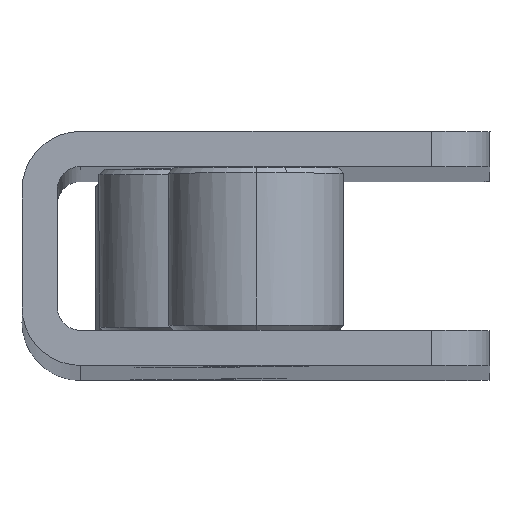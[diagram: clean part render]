
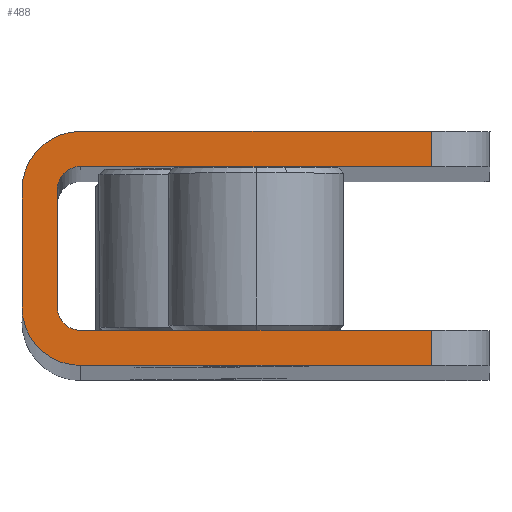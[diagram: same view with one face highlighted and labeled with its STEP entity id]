
A CAD part, left-side view. The second image highlights one B-rep face of the part: STEP entity #488.
In plain terms, the highlighted planar face has unit normal (-1, 0, 0.003).
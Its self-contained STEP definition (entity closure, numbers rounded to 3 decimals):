
#390=AXIS2_PLACEMENT_3D('Plane Axis2P3D',#387,#388,#389) ;
#394=AXIS2_PLACEMENT_3D('Circle Axis2P3D',#392,#393,$) ;
#445=AXIS2_PLACEMENT_3D('Circle Axis2P3D',#443,#444,$) ;
#107=CARTESIAN_POINT('Vertex',(-534.201,516.282,340.663)) ;
#110=CARTESIAN_POINT('Line Origine',(-534.201,501.282,340.663)) ;
#114=CARTESIAN_POINT('Vertex',(-534.201,486.282,340.663)) ;
#259=CARTESIAN_POINT('Vertex',(-534.201,486.282,337.663)) ;
#262=CARTESIAN_POINT('Line Origine',(-534.201,501.282,337.663)) ;
#266=CARTESIAN_POINT('Vertex',(-534.201,516.282,337.663)) ;
#375=CARTESIAN_POINT('Line Origine',(-534.201,516.282,347.663)) ;
#387=CARTESIAN_POINT('Axis2P3D Location',(-534.201,521.282,337.663)) ;
#392=CARTESIAN_POINT('Axis2P3D Location',(-534.201,486.282,342.663)) ;
#396=CARTESIAN_POINT('Vertex',(-534.201,481.282,342.663)) ;
#399=CARTESIAN_POINT('Line Origine',(-534.201,481.282,347.663)) ;
#403=CARTESIAN_POINT('Vertex',(-534.201,481.282,352.663)) ;
#407=CARTESIAN_POINT('Control Point',(-534.201,486.282,357.663)) ;
#408=CARTESIAN_POINT('Control Point',(-534.201,485.734,357.663)) ;
#409=CARTESIAN_POINT('Control Point',(-534.201,485.186,357.588)) ;
#410=CARTESIAN_POINT('Control Point',(-534.201,484.652,357.438)) ;
#411=CARTESIAN_POINT('Control Point',(-534.201,483.639,356.996)) ;
#412=CARTESIAN_POINT('Control Point',(-534.201,482.782,356.298)) ;
#413=CARTESIAN_POINT('Control Point',(-534.201,482.404,355.891)) ;
#414=CARTESIAN_POINT('Control Point',(-534.201,481.811,355.046)) ;
#415=CARTESIAN_POINT('Control Point',(-534.201,481.451,354.081)) ;
#416=CARTESIAN_POINT('Control Point',(-534.201,481.338,353.614)) ;
#417=CARTESIAN_POINT('Control Point',(-534.201,481.282,353.139)) ;
#418=CARTESIAN_POINT('Control Point',(-534.201,481.282,352.663)) ;
#419=CARTESIAN_POINT('Vertex',(-534.201,486.282,357.663)) ;
#422=CARTESIAN_POINT('Line Origine',(-534.201,501.282,357.663)) ;
#426=CARTESIAN_POINT('Vertex',(-534.201,516.282,357.663)) ;
#429=CARTESIAN_POINT('Line Origine',(-534.201,516.282,356.163)) ;
#433=CARTESIAN_POINT('Vertex',(-534.201,516.282,354.663)) ;
#436=CARTESIAN_POINT('Line Origine',(-534.201,501.282,354.663)) ;
#440=CARTESIAN_POINT('Vertex',(-534.201,486.282,354.663)) ;
#443=CARTESIAN_POINT('Axis2P3D Location',(-534.201,486.282,352.663)) ;
#447=CARTESIAN_POINT('Vertex',(-534.201,484.282,352.663)) ;
#450=CARTESIAN_POINT('Line Origine',(-534.201,484.282,347.663)) ;
#454=CARTESIAN_POINT('Vertex',(-534.201,484.282,342.663)) ;
#458=CARTESIAN_POINT('Control Point',(-534.201,484.282,342.663)) ;
#459=CARTESIAN_POINT('Control Point',(-534.201,484.282,342.456)) ;
#460=CARTESIAN_POINT('Control Point',(-534.201,484.309,342.248)) ;
#461=CARTESIAN_POINT('Control Point',(-534.201,484.363,342.045)) ;
#462=CARTESIAN_POINT('Control Point',(-534.201,484.522,341.657)) ;
#463=CARTESIAN_POINT('Control Point',(-534.201,484.776,341.323)) ;
#464=CARTESIAN_POINT('Control Point',(-534.201,484.923,341.173)) ;
#465=CARTESIAN_POINT('Control Point',(-534.201,485.254,340.916)) ;
#466=CARTESIAN_POINT('Control Point',(-534.201,485.64,340.752)) ;
#467=CARTESIAN_POINT('Control Point',(-534.201,485.842,340.696)) ;
#468=CARTESIAN_POINT('Control Point',(-534.201,486.055,340.665)) ;
#469=CARTESIAN_POINT('Control Point',(-534.201,486.267,340.664)) ;
#470=CARTESIAN_POINT('Control Point',(-534.201,486.272,340.663)) ;
#471=CARTESIAN_POINT('Control Point',(-534.201,486.277,340.663)) ;
#472=CARTESIAN_POINT('Control Point',(-534.201,486.282,340.663)) ;
#111=DIRECTION('Vector Direction',(0.,-1.,0.)) ;
#263=DIRECTION('Vector Direction',(0.,-1.,0.)) ;
#376=DIRECTION('Vector Direction',(0.,0.,1.)) ;
#388=DIRECTION('Axis2P3D Direction',(-1.,0.,0.)) ;
#389=DIRECTION('Axis2P3D XDirection',(0.,-1.,0.)) ;
#393=DIRECTION('Axis2P3D Direction',(-1.,0.,0.)) ;
#400=DIRECTION('Vector Direction',(0.,0.,1.)) ;
#423=DIRECTION('Vector Direction',(0.,-1.,0.)) ;
#430=DIRECTION('Vector Direction',(0.,0.,1.)) ;
#437=DIRECTION('Vector Direction',(0.,-1.,0.)) ;
#444=DIRECTION('Axis2P3D Direction',(-1.,0.,0.)) ;
#451=DIRECTION('Vector Direction',(0.,0.,1.)) ;
#112=VECTOR('Line Direction',#111,1.) ;
#264=VECTOR('Line Direction',#263,1.) ;
#377=VECTOR('Line Direction',#376,1.) ;
#401=VECTOR('Line Direction',#400,1.) ;
#424=VECTOR('Line Direction',#423,1.) ;
#431=VECTOR('Line Direction',#430,1.) ;
#438=VECTOR('Line Direction',#437,1.) ;
#452=VECTOR('Line Direction',#451,1.) ;
#475=ORIENTED_EDGE('',*,*,#268,.T.) ;
#476=ORIENTED_EDGE('',*,*,#398,.F.) ;
#477=ORIENTED_EDGE('',*,*,#405,.T.) ;
#478=ORIENTED_EDGE('',*,*,#421,.F.) ;
#479=ORIENTED_EDGE('',*,*,#428,.F.) ;
#480=ORIENTED_EDGE('',*,*,#435,.F.) ;
#481=ORIENTED_EDGE('',*,*,#442,.T.) ;
#482=ORIENTED_EDGE('',*,*,#449,.T.) ;
#483=ORIENTED_EDGE('',*,*,#456,.F.) ;
#484=ORIENTED_EDGE('',*,*,#473,.T.) ;
#485=ORIENTED_EDGE('',*,*,#116,.F.) ;
#486=ORIENTED_EDGE('',*,*,#379,.F.) ;
#488=ADVANCED_FACE('\X2\51E04F554F53\X0\.2',(#487),#391,.T.) ;
#406=B_SPLINE_CURVE_WITH_KNOTS('',5,(#407,#408,#409,#410,#411,#412,#413,#414,#415,#416,#417,#418),.UNSPECIFIED.,.F.,.U.,(6,3,3,6),(0.,3.873,7.746,11.107),.UNSPECIFIED.) ;
#457=B_SPLINE_CURVE_WITH_KNOTS('',5,(#458,#459,#460,#461,#462,#463,#464,#465,#466,#467,#468,#469,#470,#471,#472),.UNSPECIFIED.,.F.,.U.,(6,3,3,3,6),(0.,1.47,2.939,4.409,4.443),.UNSPECIFIED.) ;
#395=CIRCLE('generated circle',#394,5.) ;
#446=CIRCLE('generated circle',#445,2.) ;
#116=EDGE_CURVE('',#108,#115,#113,.T.) ;
#268=EDGE_CURVE('',#267,#260,#265,.T.) ;
#379=EDGE_CURVE('',#267,#108,#378,.T.) ;
#398=EDGE_CURVE('',#397,#260,#395,.F.) ;
#405=EDGE_CURVE('',#397,#404,#402,.T.) ;
#421=EDGE_CURVE('',#420,#404,#406,.T.) ;
#428=EDGE_CURVE('',#427,#420,#425,.T.) ;
#435=EDGE_CURVE('',#434,#427,#432,.T.) ;
#442=EDGE_CURVE('',#434,#441,#439,.T.) ;
#449=EDGE_CURVE('',#441,#448,#446,.F.) ;
#456=EDGE_CURVE('',#455,#448,#453,.T.) ;
#473=EDGE_CURVE('',#455,#115,#457,.T.) ;
#474=EDGE_LOOP('',(#475,#476,#477,#478,#479,#480,#481,#482,#483,#484,#485,#486)) ;
#487=FACE_OUTER_BOUND('',#474,.T.) ;
#113=LINE('Line',#110,#112) ;
#265=LINE('Line',#262,#264) ;
#378=LINE('Line',#375,#377) ;
#402=LINE('Line',#399,#401) ;
#425=LINE('Line',#422,#424) ;
#432=LINE('Line',#429,#431) ;
#439=LINE('Line',#436,#438) ;
#453=LINE('Line',#450,#452) ;
#391=PLANE('Plane',#390) ;
#108=VERTEX_POINT('',#107) ;
#115=VERTEX_POINT('',#114) ;
#260=VERTEX_POINT('',#259) ;
#267=VERTEX_POINT('',#266) ;
#397=VERTEX_POINT('',#396) ;
#404=VERTEX_POINT('',#403) ;
#420=VERTEX_POINT('',#419) ;
#427=VERTEX_POINT('',#426) ;
#434=VERTEX_POINT('',#433) ;
#441=VERTEX_POINT('',#440) ;
#448=VERTEX_POINT('',#447) ;
#455=VERTEX_POINT('',#454) ;
